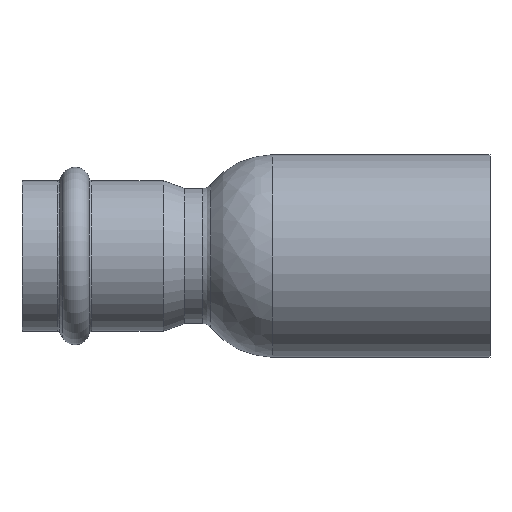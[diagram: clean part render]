
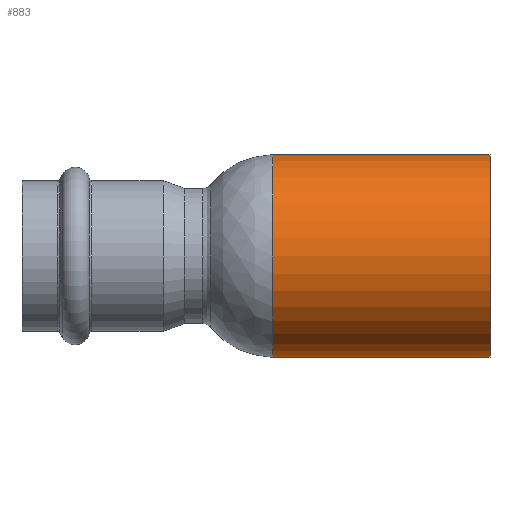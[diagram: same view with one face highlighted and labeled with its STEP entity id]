
A CAD part, front view. The second image highlights one B-rep face of the part: STEP entity #883.
In plain terms, the highlighted cylindrical face has radius 21 mm (diameter 42 mm), a full revolution.
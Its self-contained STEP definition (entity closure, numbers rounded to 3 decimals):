
#601=CARTESIAN_POINT('',(-45.0,21.,0.0));
#602=VERTEX_POINT('',#601);
#603=CARTESIAN_POINT('',(-45.0,0.,0.0));
#604=DIRECTION('',(1.0,0.0,0.0));
#605=DIRECTION('',(0.0,1.0,0.0));
#606=AXIS2_PLACEMENT_3D('',#603,#604,#605);
#607=CIRCLE('',#606,21.);
#608=EDGE_CURVE('',#602,#602,#607,.T.);
#864=CARTESIAN_POINT('',(-22.5,0.,0.0));
#865=DIRECTION('',(1.0,0.,0.0));
#866=DIRECTION('',(0.0,1.0,0.0));
#867=AXIS2_PLACEMENT_3D('',#864,#865,#866);
#868=CYLINDRICAL_SURFACE('',#867,21.0);
#869=CARTESIAN_POINT('',(0.,21.,0.0));
#870=VERTEX_POINT('',#869);
#871=CARTESIAN_POINT('',(0.0,0.0,0.0));
#872=DIRECTION('',(1.0,0.0,0.0));
#873=DIRECTION('',(0.0,1.0,0.0));
#874=AXIS2_PLACEMENT_3D('',#871,#872,#873);
#875=CIRCLE('',#874,21.);
#876=EDGE_CURVE('',#870,#870,#875,.T.);
#877=ORIENTED_EDGE('',*,*,#876,.F.);
#878=EDGE_LOOP('',(#877));
#879=FACE_OUTER_BOUND('',#878,.T.);
#880=ORIENTED_EDGE('',*,*,#608,.T.);
#881=EDGE_LOOP('',(#880));
#882=FACE_BOUND('',#881,.T.);
#883=ADVANCED_FACE('',(#879,#882),#868,.T.);
